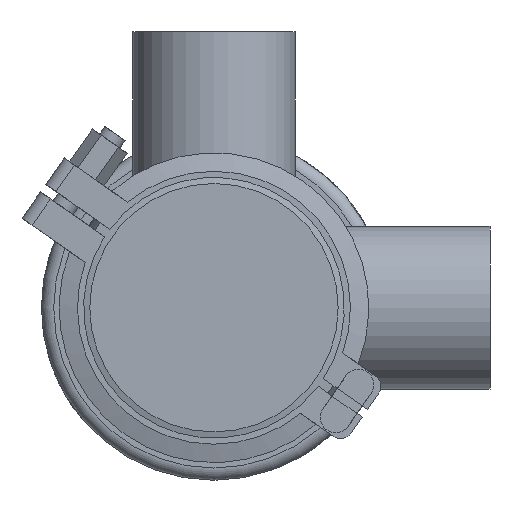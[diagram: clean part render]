
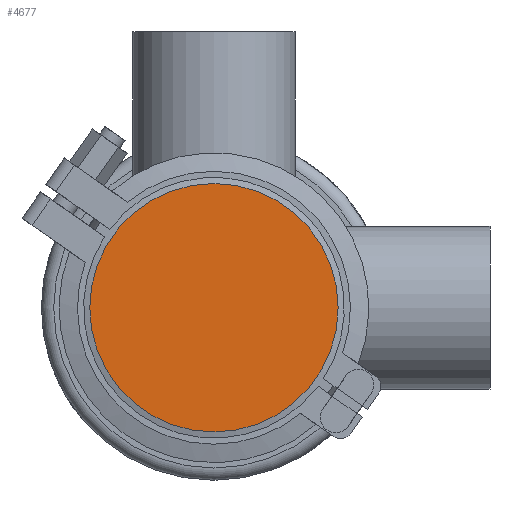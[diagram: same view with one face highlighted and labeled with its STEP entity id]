
A CAD part, front view. The second image highlights one B-rep face of the part: STEP entity #4677.
In plain terms, the highlighted planar face has unit normal (0, -1, 0).
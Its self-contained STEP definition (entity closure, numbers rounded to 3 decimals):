
#3921 = CARTESIAN_POINT ( 'NONE',  ( 0., 0., 40.5 ) ) ;
#4182 = DIRECTION ( 'NONE',  ( 0., -1., 0. ) ) ;
#4677 = ADVANCED_FACE ( 'NONE', ( #9079 ), #5676, .T. ) ;
#4701 = EDGE_LOOP ( 'NONE', ( #18862 ) ) ;
#5153 = DIRECTION ( 'NONE',  ( 0., 1., 0. ) ) ;
#5676 = PLANE ( 'NONE',  #14608 ) ;
#8727 = VERTEX_POINT ( 'NONE', #3921 ) ;
#9079 = FACE_OUTER_BOUND ( 'NONE', #4701, .T. ) ;
#13535 = DIRECTION ( 'NONE',  ( 0., 0., 1. ) ) ;
#13750 = DIRECTION ( 'NONE',  ( 0., 0., -1. ) ) ;
#14608 = AXIS2_PLACEMENT_3D ( 'NONE', #17427, #4182, #13750 ) ;
#15773 = EDGE_CURVE ( 'NONE', #8727, #8727, #20647, .T. ) ;
#17427 = CARTESIAN_POINT ( 'NONE',  ( -40.5, 0., 0. ) ) ;
#18580 = CARTESIAN_POINT ( 'NONE',  ( 0., 0., 0. ) ) ;
#18862 = ORIENTED_EDGE ( 'NONE', *, *, #15773, .F. ) ;
#20647 = CIRCLE ( 'NONE', #20998, 40.5 ) ;
#20998 = AXIS2_PLACEMENT_3D ( 'NONE', #18580, #5153, #13535 ) ;
